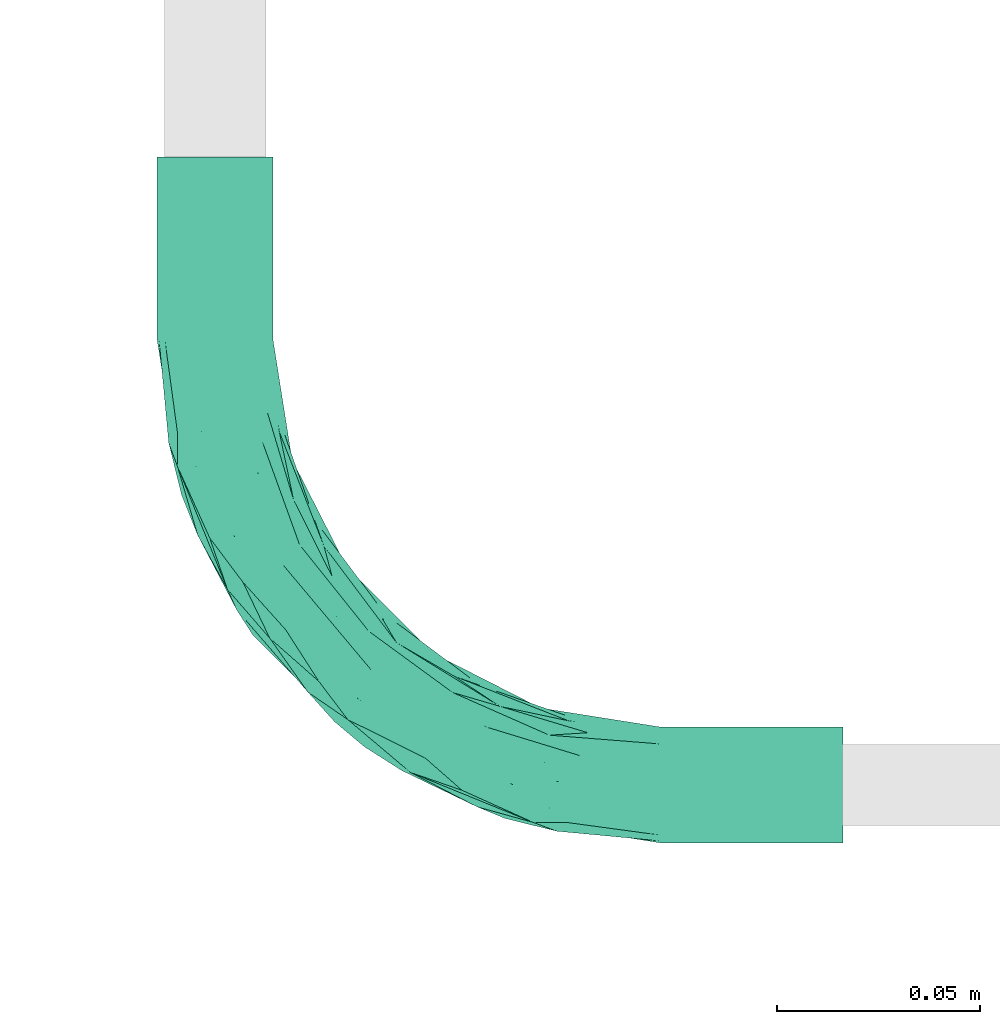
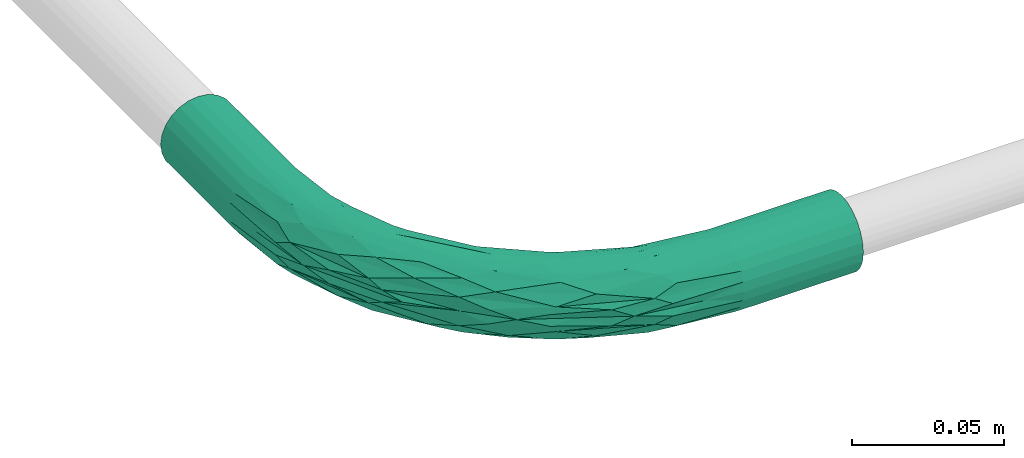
# One storey, part 7 of 51: 1 flow fitting.
"""IFC2X3 building model written with IfcOpenShell, lengths in millimetres."""

from ifc_helpers import new_model, entity, si_unit, converted_unit, derived_unit, direction, frame, origin_with_axes, place, context, subcontext, project, spatial, open_shell, surface_model, source, transform, mapped, type_object, element, save


model = new_model("IFC2X3")

# Units and contexts
model_context = context("Model", 3, precision=0.01, world=frame((0.0, 4.29681676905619e-09, 0.0)), true_north=direction((4.01073788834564e-13, 1.0)))
plan_context = context("Plan", 3, precision=0.01, world=frame((0.0, 4.29681676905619e-09, 0.0)), true_north=direction((4.01073788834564e-13, 1.0)))
body_context = subcontext(model_context, "Body", "Model", "MODEL_VIEW")
ifc_project = project(units=[converted_unit("PLANEANGLEUNIT", "DEGREE", entity("IfcPositiveLengthMeasure", 0.0174532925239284), si_unit("PLANEANGLEUNIT", "RADIAN"), dimensions=[0, 0, 0, 0, 0, 0, 0]), si_unit("AREAUNIT", "SQUARE_METRE"), si_unit("LENGTHUNIT", "METRE", prefix="MILLI"), si_unit("MASSUNIT", "GRAM", prefix="KILO"), si_unit("POWERUNIT", "WATT"), si_unit("PRESSUREUNIT", "PASCAL"), si_unit("FORCEUNIT", "NEWTON", prefix="KILO"), si_unit("ELECTRICVOLTAGEUNIT", "VOLT"), si_unit("ELECTRICCURRENTUNIT", "AMPERE"), si_unit("THERMODYNAMICTEMPERATUREUNIT", "DEGREE_CELSIUS"), si_unit("TIMEUNIT", "SECOND"), si_unit("VOLUMEUNIT", "CUBIC_METRE"), derived_unit("LINEARVELOCITYUNIT", [(si_unit("LENGTHUNIT", "METRE"), 1), (si_unit("TIMEUNIT", "SECOND"), -1)]), derived_unit("VOLUMETRICFLOWRATEUNIT", [(si_unit("VOLUMEUNIT", "CUBIC_METRE"), 1), (si_unit("TIMEUNIT", "SECOND"), -1)]), derived_unit("THERMALTRANSMITTANCEUNIT", [(si_unit("POWERUNIT", "WATT"), 1), (si_unit("THERMODYNAMICTEMPERATUREUNIT", "KELVIN"), -1), (si_unit("AREAUNIT", "SQUARE_METRE"), -1)]), derived_unit("SOUNDPRESSUREUNIT", [(si_unit("PRESSUREUNIT", "PASCAL"), 1)])], contexts=[model_context, plan_context])

# Site, building, storey
site_placement = place(None, frame((0.0, -4.29681676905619e-09, 0.0), z_axis=(0.0, 0.0, 1.0), x_axis=(1.0, 0.0, 0.0)))
site = spatial("IfcSite", under=ifc_project, at=site_placement, Name="ENGM", CompositionType="ELEMENT")
building_placement = place(site_placement, frame((0.0, 4.29681676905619e-09, 0.0), z_axis=(0.0, 0.0, 1.0), x_axis=(1.0, 0.0, 0.0)))
building = spatial("IfcBuilding", under=site, at=building_placement, Name="TI", CompositionType="ELEMENT")
storey_placement = place(building_placement, frame((0.0, 0.0, 210900.0), z_axis=(0.0, 0.0, 1.0), x_axis=(1.0, 0.0, 0.0)))
storey = spatial("IfcBuildingStorey", under=building, at=storey_placement, Name="Nivå F", CompositionType="ELEMENT", Elevation=210900.0)

# Flow fitting
cable_carrier_fitting_type = type_object("IfcCableCarrierFittingType", Name="Trekkerør, glatt bend", PredefinedType="BEND")
shared_shape = source(origin_with_axes(), body_context, "Body", "SurfaceModel", [
    surface_model("IfcShellBasedSurfaceModel", [(-154.55625, 0.0, -14.27109), (-154.55625, -13.78482, -3.69363), (-154.55625, 3.69363, -13.78482), (-154.55625, 7.13555, -12.35913), (-154.55625, 12.35913, -7.13555), (-154.55625, -14.27109, 0.0), (-154.55625, 10.09119, -10.09119), (-154.55625, -13.78482, 3.69363), (-154.55625, -10.09119, -10.09119), (-154.55625, -12.35913, -7.13555), (-154.55625, -7.13555, -12.35913), (-154.55625, -3.69363, -13.78482), (-154.55625, 13.78482, -3.69363), (-154.55625, 14.27109, 0.0), (-154.55625, -12.35913, 7.13555), (-154.55625, 13.78482, 3.69363), (-154.55625, 12.35913, 7.13555), (-154.55625, 7.13555, 12.35913), (-154.55625, -3.69363, 13.78482), (-154.55625, 10.09119, 10.09119), (-154.55625, 3.69363, 13.78482), (-154.55625, 0.0, 14.27109), (-154.55625, -10.09119, 10.09119), (-154.55625, -7.13555, 12.35913), (-109.53828, -14.27109, 0.0), (-109.53828, -13.78482, 3.69363), (-109.53828, -12.35913, 7.13555), (-109.53828, -10.09119, 10.09119), (-109.53828, -7.13555, 12.35913), (-109.53828, -3.69363, 13.78482), (-109.53828, 0.0, 14.27109), (-109.53828, 3.69363, 13.78482), (-109.53828, 7.13555, 12.35913), (-109.53828, 10.09119, 10.09119), (-109.53828, 12.35913, 7.13555), (-109.53828, 13.78482, 3.69363), (-109.53828, 14.27109, 0.0), (-109.53828, 13.78482, -3.69363), (-109.53828, 12.35913, -7.13555), (-109.53828, 10.09119, -10.09119), (-109.53828, 7.13555, -12.35913), (-109.53828, 3.69363, -13.78482), (-109.53828, 0.0, -14.27109), (-109.53828, -3.69363, -13.78482), (-109.53828, -7.13555, -12.35913), (-109.53828, -10.09119, -10.09119), (-109.53828, -12.35913, -7.13555), (-109.53828, -13.78482, -3.69363), (-3.69363, 109.53828, 13.78482), (-7.1534, 89.99414, 13.24855), (-5.52615, 80.75509, 14.17919), (-60.76988, -1.31586, 8.35584), (-86.74719, -9.26979, 8.53701), (-78.43143, -9.27777, 5.21969), (-54.57322, 16.38341, 14.20456), (-37.47603, 23.87443, 14.06701), (-28.15284, 38.55475, 14.18707), (-61.24691, 4.75102, 13.02092), (-78.33811, -4.70928, 11.16152), (-49.9274, 6.84288, 10.90618), (-95.50078, -12.04777, 0.0), (-71.27908, -8.21143, 0.0), (-84.10609, -11.40642, 2.49425), (-84.40829, 4.61635, 14.17552), (-21.30634, 35.06714, 12.98487), (-25.5172, 25.5172, 10.83717), (-6.52074, 51.84045, 11.43645), (-14.9351, 49.72791, 14.07022), (-36.13298, 13.4524, 8.61377), (-48.07555, 3.07814, 4.93607), (-22.8399, 22.8399, 5.72655), (-61.42092, -4.26023, 2.69213), (-43.25505, 5.21821, 2.45459), (-76.37759, 10.60152, 13.29307), (-84.26876, 11.72213, 11.45557), (-16.10152, 32.64981, 8.49548), (-91.7629, 12.84689, 8.81067), (-78.89232, 2.16712, 14.11264), (-86.94002, -3.39666, 13.1113), (-53.54164, 32.46551, 0.0), (-80.0991, 18.9338, 0.0), (-65.27277, 24.4813, 4.15685), (-70.11513, 19.34285, 8.96525), (-58.85951, 26.77111, 6.9074), (-87.03749, 15.77002, 5.64275), (-7.13555, 109.53828, 12.35913), (-10.09119, 109.53828, 10.09119), (-12.24312, 82.27842, 11.46622), (-88.43996, 16.36335, 2.74565), (-0.11486, 73.25678, 13.06442), (7.13555, 109.53828, 12.35913), (3.69363, 109.53828, 13.78482), (-41.93843, 41.93843, 3.06688), (-41.06778, 41.06778, 6.49711), (-12.84689, 91.7629, 8.81067), (-12.35913, 109.53828, 7.13555), (5.39094, 64.47541, 3.19158), (-3.07814, 48.07555, 4.93607), (-3.51803, 45.96754, 2.3263), (-36.76496, 9.37439, 0.0), (-23.06967, 23.06967, 0.0), (0.0, 109.53828, 14.27109), (-0.81133, 84.32322, 14.11955), (-41.69927, 29.72188, 13.44421), (12.35913, 109.53828, 7.13555), (9.27777, 78.43143, 5.21969), (13.78482, 109.53828, 3.69363), (-57.22502, 11.42573, 14.17543), (9.26979, 86.74719, 8.53701), (1.31586, 60.76988, 8.35584), (5.72038, 82.4285, 11.18319), (11.40642, 84.10609, 2.49425), (-59.15779, 20.7896, 12.14962), (-18.9338, 80.0991, 0.0), (-32.46551, 53.54164, 0.0), (-24.4813, 65.27277, 4.15685), (-16.36335, 88.43996, 2.74565), (-14.27109, 109.53828, 0.0), (-8.62571, 53.03293, 12.89354), (-13.78482, 109.53828, 3.69363), (-15.77002, 87.03749, 5.64275), (-37.83174, 37.83174, 11.72896), (-22.74629, 58.47709, 11.20332), (-35.02355, 44.66648, 9.39592), (-51.28798, 28.82677, 10.17947), (-14.20714, 66.91103, 13.32458), (10.09119, 109.53828, 10.09119), (12.04777, 95.50078, 0.0), (-26.77111, 58.85951, 6.9074), (-19.34285, 70.11513, 8.96525), (-22.27171, 49.8428, 13.75381), (-14.02071, 58.08047, 14.23303), (-38.19919, 17.37508, 12.43121), (-25.3167, 50.04426, 12.74411), (-58.12909, 18.65185, 13.32115), (-15.5265, 29.44086, 2.9254), (-54.02202, 0.58148, 0.0), (-9.37439, 36.76496, 0.0), (-0.58148, 54.02202, 0.0), (8.21143, 71.27908, 0.0), (14.27109, 109.53828, 0.0), (-82.27842, 12.24312, -11.46622), (-16.38341, 54.57322, -14.20456), (-23.87443, 37.47603, -14.06701), (-38.55475, 28.15284, -14.18707), (-91.7629, 12.84689, -8.81067), (-24.4813, 65.27277, -4.15685), (-88.43996, 16.36335, -2.74565), (-65.27277, 24.4813, -4.15685), (-87.03749, 15.77002, -5.64275), (12.35913, 109.53828, -7.13555), (13.78482, 109.53828, -3.69363), (9.27777, 78.43143, -5.21969), (-84.10609, -11.40642, -2.49425), (-61.42092, -4.26023, -2.69213), (-41.93843, 41.93843, -3.06688), (-4.61635, 84.40829, -14.17552), (-3.69363, 109.53828, -13.78482), (0.0, 109.53828, -14.27109), (-48.07555, 3.07814, -4.93607), (-78.43143, -9.27777, -5.21969), (-60.76988, -1.31586, -8.35584), (-82.4285, -5.72038, -11.18319), (-51.84045, 6.52074, -11.43645), (-86.74719, -9.26979, -8.53701), (3.39666, 86.94002, -13.1113), (4.70928, 78.33811, -11.16152), (-4.75102, 61.24691, -13.02092), (-3.51803, 45.96754, -2.3263), (-15.5265, 29.44086, -2.9254), (-73.25678, 0.11486, -13.06442), (11.40642, 84.10609, -2.49425), (-84.32322, 0.81133, -14.11955), (-11.42573, 57.22502, -14.17543), (-3.07814, 48.07555, -4.93607), (1.31586, 60.76988, -8.35584), (-89.99414, 7.1534, -13.24855), (-10.60152, 76.37759, -13.29307), (-6.84288, 49.9274, -10.90618), (-2.16712, 78.89232, -14.11264), (-13.4524, 36.13298, -8.61377), (-25.5172, 25.5172, -10.83717), (-13.78482, 109.53828, -3.69363), (-16.36335, 88.43996, -2.74565), (3.69363, 109.53828, -13.78482), (-26.77111, 58.85951, -6.9074), (-15.77002, 87.03749, -5.64275), (-19.34285, 70.11513, -8.96525), (-12.35913, 109.53828, -7.13555), (-80.75509, 5.52615, -14.17919), (10.09119, 109.53828, -10.09119), (9.26979, 86.74719, -8.53701), (-10.09119, 109.53828, -10.09119), (-7.13555, 109.53828, -12.35913), (-11.72213, 84.26876, -11.45557), (-35.06714, 21.30634, -12.98487), (-32.64981, 16.10152, -8.49548), (-41.06778, 41.06777, -6.49711), (-29.72188, 41.69927, -13.44421), (7.13555, 109.53828, -12.35913), (-58.47709, 22.74629, -11.20332), (-66.91103, 14.20714, -13.32458), (-22.8399, 22.8399, -5.72655), (-49.72791, 14.9351, -14.07022), (-44.66648, 35.02355, -9.39592), (-28.82677, 51.28798, -10.17947), (-37.83174, 37.83174, -11.72896), (-20.7896, 59.15779, -12.14962), (-43.25505, 5.21821, -2.45459), (-53.03293, 8.62571, -12.89354), (-12.84689, 91.7629, -8.81067), (-58.85951, 26.77111, -6.9074), (-70.11513, 19.34285, -8.96525), (-49.8428, 22.27171, -13.75381), (-58.08047, 14.02071, -14.23303), (-17.37508, 38.19919, -12.43121), (-50.04426, 25.3167, -12.74411), (-18.65185, 58.12909, -13.32115), (5.39094, 64.47541, -3.19158), (-13.78482, 154.55625, -3.69363), (0.0, 154.55625, -14.27109), (-3.69363, 154.55625, -13.78482), (-12.35913, 154.55625, -7.13555), (-7.13555, 154.55625, -12.35913), (-10.09119, 154.55625, -10.09119), (14.27109, 154.55625, 0.0), (7.13555, 154.55625, -12.35913), (12.35913, 154.55625, -7.13555), (10.09119, 154.55625, -10.09119), (3.69363, 154.55625, -13.78482), (13.78482, 154.55625, -3.69363), (-14.27109, 154.55625, 0.0), (13.78482, 154.55625, 3.69363), (-13.78482, 154.55625, 3.69363), (-7.13555, 154.55625, 12.35913), (-12.35913, 154.55625, 7.13555), (-10.09119, 154.55625, 10.09119), (0.0, 154.55625, 14.27109), (-3.69363, 154.55625, 13.78482), (10.09119, 154.55625, 10.09119), (12.35913, 154.55625, 7.13555), (3.69363, 154.55625, 13.78482), (7.13555, 154.55625, 12.35913)], [open_shell([[[0, 1, 2]], [[3, 2, 4]], [[5, 4, 2]], [[6, 3, 4]], [[5, 7, 4]], [[8, 9, 10]], [[0, 11, 10]], [[9, 1, 10]], [[1, 0, 10]], [[2, 1, 5]], [[7, 12, 4]], [[13, 14, 15]], [[16, 15, 17]], [[17, 15, 18]], [[19, 16, 17]], [[20, 17, 21]], [[22, 18, 14]], [[13, 7, 14]], [[23, 18, 22]], [[14, 18, 15]], [[18, 21, 17]], [[12, 7, 13]], [[7, 24, 25]], [[26, 14, 25]], [[23, 27, 28]], [[26, 27, 22]], [[18, 28, 29]], [[24, 7, 5]], [[25, 14, 7]], [[26, 22, 14]], [[27, 23, 22]], [[18, 23, 28]], [[29, 21, 18]], [[29, 30, 21]], [[17, 31, 32]], [[33, 19, 32]], [[15, 34, 35]], [[33, 34, 16]], [[13, 35, 36]], [[31, 20, 30]], [[31, 17, 20]], [[30, 20, 21]], [[32, 19, 17]], [[33, 16, 19]], [[15, 16, 34]], [[35, 13, 15]], [[12, 36, 37]], [[38, 4, 37]], [[3, 39, 40]], [[38, 39, 6]], [[2, 40, 41]], [[36, 12, 13]], [[37, 4, 12]], [[38, 6, 4]], [[39, 3, 6]], [[2, 3, 40]], [[41, 0, 2]], [[41, 42, 0]], [[10, 43, 44]], [[45, 8, 44]], [[1, 46, 47]], [[45, 46, 9]], [[5, 47, 24]], [[43, 11, 42]], [[43, 10, 11]], [[42, 11, 0]], [[44, 8, 10]], [[45, 9, 8]], [[1, 9, 46]], [[47, 5, 1]], [[48, 49, 50]], [[51, 52, 53]], [[54, 55, 56]], [[57, 58, 59]], [[60, 61, 62]], [[63, 31, 30]], [[58, 28, 27]], [[25, 60, 62]], [[64, 65, 66]], [[27, 52, 58]], [[67, 55, 64]], [[68, 69, 70]], [[71, 72, 69]], [[31, 73, 32]], [[26, 25, 53]], [[33, 32, 74]], [[75, 65, 68]], [[34, 33, 76]], [[77, 29, 78]], [[53, 69, 51]], [[79, 80, 81]], [[82, 83, 84]], [[85, 86, 87]], [[36, 35, 88]], [[35, 34, 84]], [[89, 90, 91]], [[92, 81, 93]], [[94, 86, 95]], [[28, 78, 29]], [[96, 97, 98]], [[99, 100, 72]], [[29, 77, 30]], [[101, 50, 102]], [[59, 58, 51]], [[54, 56, 103]], [[101, 102, 91]], [[104, 105, 106]], [[85, 49, 48]], [[107, 57, 55]], [[105, 104, 108]], [[97, 105, 109]], [[89, 110, 90]], [[68, 65, 59]], [[111, 106, 105]], [[63, 54, 73]], [[112, 82, 74]], [[113, 114, 115]], [[92, 115, 114]], [[77, 63, 30]], [[113, 116, 117]], [[48, 50, 101]], [[27, 26, 52]], [[64, 66, 118]], [[95, 119, 120]], [[116, 115, 120]], [[114, 79, 92]], [[121, 122, 123]], [[123, 124, 121]], [[122, 125, 87]], [[87, 86, 94]], [[109, 110, 66]], [[74, 32, 73]], [[90, 110, 126]], [[104, 126, 108]], [[78, 58, 57]], [[121, 112, 103]], [[75, 97, 109]], [[106, 111, 127]], [[84, 88, 35]], [[83, 93, 81]], [[93, 128, 115]], [[94, 120, 129]], [[125, 130, 131]], [[102, 67, 89]], [[122, 87, 129]], [[49, 87, 125]], [[66, 110, 89]], [[108, 110, 109]], [[118, 67, 64]], [[66, 65, 75]], [[112, 74, 73]], [[76, 74, 82]], [[63, 77, 107]], [[73, 31, 63]], [[102, 50, 131]], [[89, 91, 102]], [[67, 56, 55]], [[65, 132, 59]], [[107, 55, 54]], [[132, 55, 57]], [[131, 50, 125]], [[125, 122, 133]], [[134, 54, 103]], [[112, 121, 124]], [[134, 112, 73]], [[133, 130, 125]], [[53, 62, 71]], [[70, 69, 72]], [[97, 70, 135]], [[97, 135, 98]], [[84, 34, 76]], [[88, 81, 80]], [[116, 120, 119]], [[120, 115, 128]], [[81, 92, 79]], [[115, 92, 93]], [[58, 78, 28]], [[77, 78, 57]], [[53, 52, 26]], [[58, 52, 51]], [[110, 108, 126]], [[105, 108, 109]], [[68, 59, 51]], [[65, 64, 132]], [[69, 68, 51]], [[75, 68, 70]], [[97, 75, 70]], [[66, 75, 109]], [[87, 49, 85]], [[50, 49, 125]], [[129, 128, 123]], [[122, 121, 133]], [[129, 123, 122]], [[83, 124, 123]], [[83, 123, 93]], [[112, 124, 82]], [[121, 103, 133]], [[130, 103, 56]], [[103, 130, 133]], [[130, 56, 131]], [[56, 67, 131]], [[102, 131, 67]], [[81, 88, 84]], [[36, 88, 80]], [[117, 116, 119]], [[115, 116, 113]], [[55, 132, 64]], [[57, 59, 132]], [[25, 24, 60]], [[71, 62, 61]], [[25, 62, 53]], [[136, 99, 72]], [[53, 71, 69]], [[72, 71, 136]], [[137, 135, 100]], [[100, 135, 72]], [[135, 137, 98]], [[72, 135, 70]], [[98, 137, 138]], [[139, 111, 96]], [[71, 61, 136]], [[96, 138, 139]], [[127, 111, 139]], [[127, 140, 106]], [[96, 111, 105]], [[97, 96, 105]], [[96, 98, 138]], [[74, 76, 33]], [[84, 76, 82]], [[120, 94, 95]], [[87, 94, 129]], [[84, 83, 81]], [[124, 83, 82]], [[123, 128, 93]], [[120, 128, 129]], [[66, 89, 118]], [[67, 118, 89]], [[63, 107, 54]], [[57, 107, 77]], [[54, 134, 73]], [[103, 112, 134]], [[39, 141, 40]], [[142, 143, 144]], [[141, 39, 145]], [[114, 113, 146]], [[147, 148, 149]], [[150, 151, 152]], [[80, 147, 36]], [[61, 153, 154]], [[80, 79, 148]], [[155, 148, 79]], [[156, 157, 158]], [[37, 149, 38]], [[159, 160, 161]], [[161, 162, 163]], [[160, 46, 164]], [[165, 166, 167]], [[153, 47, 160]], [[168, 137, 169]], [[162, 44, 170]], [[151, 127, 171]], [[172, 43, 42]], [[173, 167, 143]], [[46, 160, 47]], [[44, 43, 170]], [[152, 174, 175]], [[45, 164, 46]], [[41, 40, 176]], [[156, 142, 177]], [[178, 166, 175]], [[179, 156, 158]], [[79, 114, 155]], [[180, 181, 178]], [[117, 182, 183]], [[184, 179, 158]], [[185, 186, 187]], [[188, 186, 182]], [[41, 176, 189]], [[190, 150, 191]], [[192, 193, 194]], [[195, 181, 163]], [[184, 165, 179]], [[44, 162, 45]], [[196, 181, 180]], [[146, 197, 155]], [[142, 144, 198]], [[165, 184, 199]], [[166, 190, 191]], [[200, 201, 141]], [[157, 177, 193]], [[174, 202, 180]], [[190, 166, 199]], [[143, 195, 203]], [[166, 178, 167]], [[204, 205, 206]], [[171, 127, 139]], [[41, 189, 42]], [[206, 207, 198]], [[152, 175, 191]], [[194, 193, 177]], [[208, 202, 169]], [[206, 200, 204]], [[172, 42, 189]], [[195, 163, 209]], [[210, 188, 192]], [[207, 187, 194]], [[145, 39, 38]], [[196, 159, 161]], [[47, 153, 60]], [[186, 183, 182]], [[185, 197, 146]], [[197, 211, 148]], [[145, 149, 212]], [[201, 213, 214]], [[172, 203, 170]], [[200, 141, 212]], [[176, 141, 201]], [[163, 162, 170]], [[164, 162, 161]], [[209, 203, 195]], [[163, 181, 196]], [[207, 194, 177]], [[210, 194, 187]], [[156, 179, 173]], [[177, 157, 156]], [[172, 189, 214]], [[170, 43, 172]], [[203, 144, 143]], [[181, 215, 178]], [[173, 143, 142]], [[215, 143, 167]], [[214, 189, 201]], [[201, 200, 216]], [[217, 142, 198]], [[207, 206, 205]], [[217, 207, 177]], [[216, 213, 201]], [[152, 171, 218]], [[202, 174, 169]], [[100, 208, 169]], [[208, 136, 154]], [[186, 188, 210]], [[183, 146, 113]], [[147, 149, 37]], [[149, 148, 211]], [[146, 155, 114]], [[148, 155, 197]], [[166, 165, 199]], [[179, 165, 167]], [[152, 191, 150]], [[166, 191, 175]], [[162, 164, 45]], [[160, 164, 161]], [[180, 178, 175]], [[181, 195, 215]], [[174, 180, 175]], [[196, 180, 202]], [[159, 196, 202]], [[163, 196, 161]], [[141, 176, 40]], [[189, 176, 201]], [[212, 211, 204]], [[200, 206, 216]], [[212, 204, 200]], [[185, 205, 204]], [[185, 204, 197]], [[207, 205, 187]], [[206, 198, 216]], [[213, 198, 144]], [[198, 213, 216]], [[213, 144, 214]], [[144, 203, 214]], [[172, 214, 203]], [[146, 183, 186]], [[117, 183, 113]], [[36, 147, 37]], [[148, 147, 80]], [[143, 215, 195]], [[167, 178, 215]], [[60, 153, 61]], [[60, 24, 47]], [[154, 160, 159]], [[160, 154, 153]], [[208, 154, 159]], [[202, 208, 159]], [[151, 140, 127]], [[100, 169, 137]], [[99, 208, 100]], [[168, 169, 174]], [[218, 174, 152]], [[218, 138, 168]], [[136, 208, 99]], [[138, 137, 168]], [[136, 61, 154]], [[139, 138, 218]], [[151, 171, 152]], [[139, 218, 171]], [[174, 218, 168]], [[194, 210, 192]], [[186, 210, 187]], [[149, 145, 38]], [[141, 145, 212]], [[186, 185, 146]], [[205, 185, 187]], [[204, 211, 197]], [[149, 211, 212]], [[163, 170, 209]], [[203, 209, 170]], [[156, 173, 142]], [[167, 173, 179]], [[142, 217, 177]], [[198, 207, 217]], [[219, 220, 221]], [[222, 221, 223]], [[222, 219, 221]], [[222, 223, 224]], [[220, 219, 225]], [[226, 227, 228]], [[226, 229, 220]], [[226, 230, 227]], [[226, 220, 230]], [[225, 230, 220]], [[219, 231, 225]], [[232, 225, 233]], [[234, 233, 235]], [[232, 233, 234]], [[234, 235, 236]], [[237, 234, 238]], [[232, 239, 240]], [[239, 232, 241]], [[239, 241, 242]], [[232, 234, 241]], [[234, 237, 241]], [[233, 225, 231]], [[106, 225, 232]], [[240, 104, 232]], [[90, 239, 242]], [[240, 239, 126]], [[91, 242, 241]], [[225, 106, 140]], [[232, 104, 106]], [[240, 126, 104]], [[239, 90, 126]], [[91, 90, 242]], [[241, 101, 91]], [[241, 237, 101]], [[85, 238, 234]], [[236, 86, 234]], [[119, 235, 233]], [[236, 235, 95]], [[117, 233, 231]], [[238, 48, 237]], [[238, 85, 48]], [[237, 48, 101]], [[234, 86, 85]], [[236, 95, 86]], [[119, 95, 235]], [[233, 117, 119]], [[182, 231, 219]], [[222, 188, 219]], [[193, 224, 223]], [[222, 224, 192]], [[157, 223, 221]], [[231, 182, 117]], [[219, 188, 182]], [[222, 192, 188]], [[224, 193, 192]], [[157, 193, 223]], [[221, 158, 157]], [[221, 220, 158]], [[199, 229, 226]], [[228, 190, 226]], [[151, 227, 230]], [[228, 227, 150]], [[140, 230, 225]], [[229, 184, 220]], [[229, 199, 184]], [[220, 184, 158]], [[226, 190, 199]], [[228, 150, 190]], [[151, 150, 227]], [[230, 140, 151]]])]),
])
flow_fitting_placement = place(storey_placement, frame((611382.66348, 690287.68309, -110.0), z_axis=(0.0, 0.0, 1.0), x_axis=(0.0, -1.0, 0.0)))
element("IfcFlowFitting", 1, at=flow_fitting_placement, inside=storey, type_object=cable_carrier_fitting_type, Name="Trekkerør, glatt bend", context=body_context, shape_type="MappedRepresentation", body=[
    mapped(shared_shape, transform((0.0, 0.0, 0.0), scale=1.0)),
])

save(model, "model.ifc")
